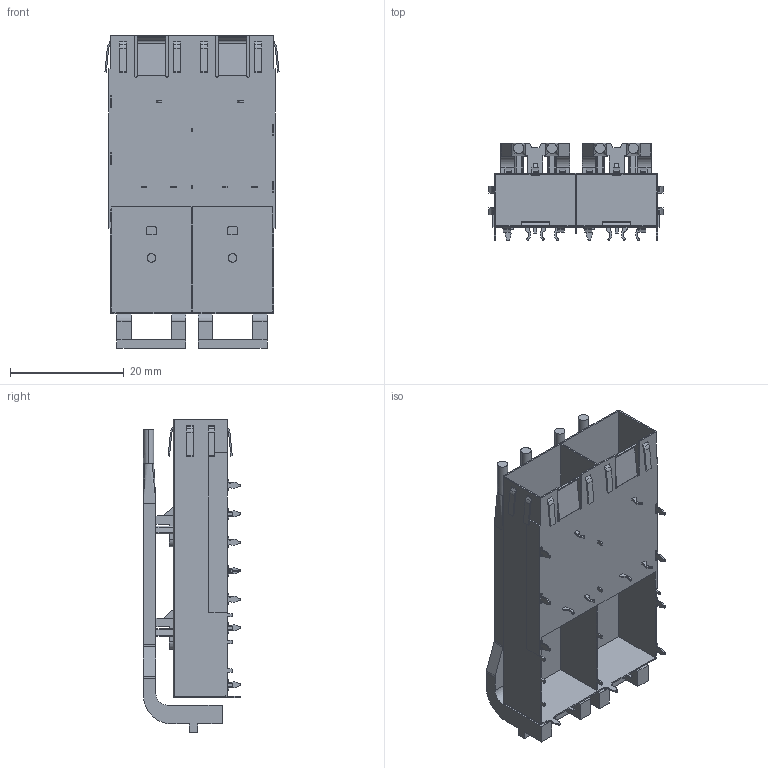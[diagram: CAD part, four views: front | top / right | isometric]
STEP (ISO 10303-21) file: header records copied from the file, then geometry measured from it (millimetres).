
FILE_DESCRIPTION (( 'STEP AP203' ), '1' );
FILE_NAME ('SFP 1X2短款有月牙导光柱14.10.STEP', '2024-03-06T02:37:53', ( '' ), ( '' ), 'SwSTEP 2.0', 'SolidWorks 2018', '' );
FILE_SCHEMA (( 'CONFIG_CONTROL_DESIGN' ));
Length unit declared in the file: millimetre
Products named in the file (1): SFP 1X2短款有月牙导光柱14.10
Bounding box: 30.55 x 17.04 x 54.82 mm (x, y, z)
Volume: 2543.8 mm3; surface area: 10639.1 mm2
Topology: 1 solids, 1 shells, 888 faces, 2492 edges, 1626 vertices
Faces by surface type: plane 488, cylinder 350, torus 32, bspline 16, sphere 2
Entity records: 28989 total; most frequent: CARTESIAN_POINT 5309, DIRECTION 4990, ORIENTED_EDGE 4980, EDGE_CURVE 2490, LINE 1736, VECTOR 1736, AXIS2_PLACEMENT_3D 1627, VERTEX_POINT 1626
